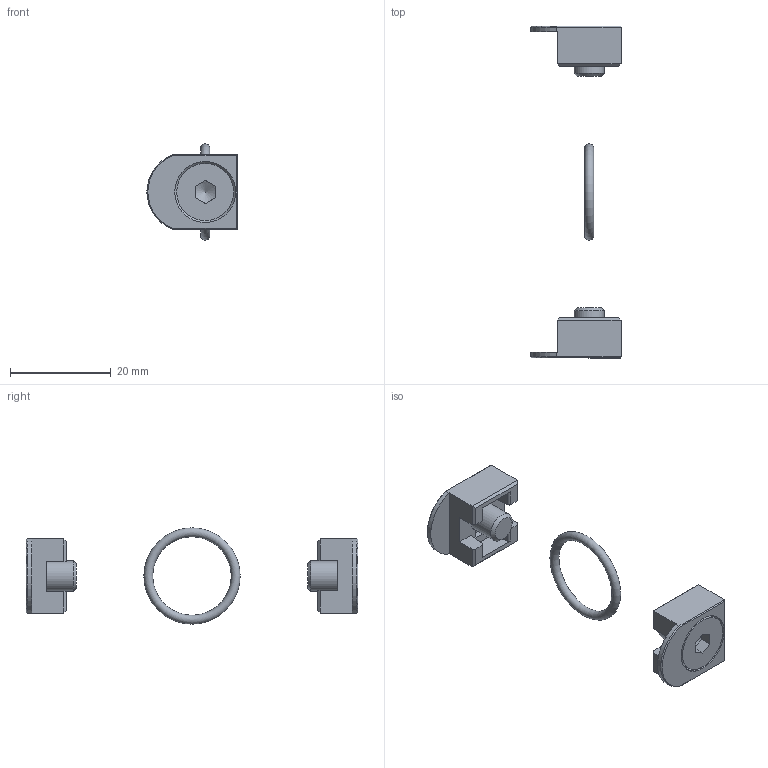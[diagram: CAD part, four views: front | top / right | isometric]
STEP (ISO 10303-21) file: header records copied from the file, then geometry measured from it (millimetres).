
FILE_DESCRIPTION((''),'2;1');
FILE_NAME('K:\ZEICHNG\webgrafik.intern\Air-Techniques Befestigungen und Behälter\step\KP.11 Z.stp','2013-06-21T09:29:45',('RJanz'),(''),'Autodesk Inventor 2013','Autodesk Inventor 2013','');
FILE_SCHEMA(('CONFIG_CONTROL_DESIGN'));
Length unit declared in the file: millimetre
Products named in the file (1): Bauteil1
Bounding box: 17.95 x 66 x 19.16 mm (x, y, z)
Volume: 2541.6 mm3; surface area: 2765.1 mm2
Topology: 3 solids, 3 shells, 127 faces, 334 edges, 215 vertices
Faces by surface type: plane 88, cylinder 28, cone 10, torus 1
Full cylindrical faces by diameter (mm): 6 x2, 11.34 x2, 12.1 x2
Entity records: 3889 total; most frequent: CARTESIAN_POINT 699, ORIENTED_EDGE 624, DIRECTION 610, EDGE_CURVE 312, VECTOR 222, LINE 222, VERTEX_POINT 207, AXIS2_PLACEMENT_3D 194
